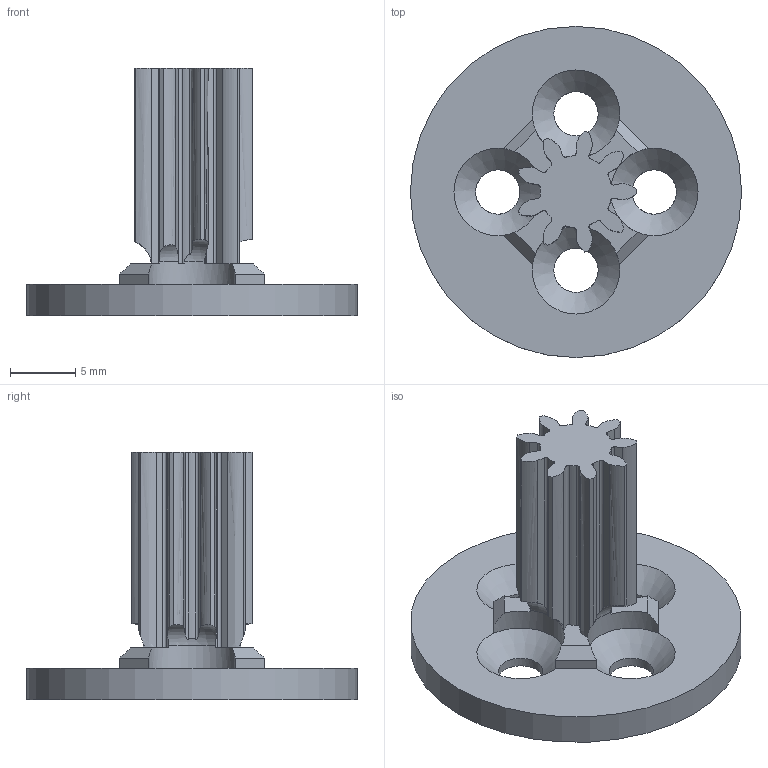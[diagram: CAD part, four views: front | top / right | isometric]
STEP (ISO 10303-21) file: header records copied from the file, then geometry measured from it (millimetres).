
FILE_DESCRIPTION(/* description */ ('STEP AP242 Edition 2','CAx-IF Rec.Pracs.---Representation and Presentation of Product Manufacturing Information (PMI)---4.0---2014-10-13','CAx-IF Rec.Pracs.---3D Tessellated Geometry---0.4---2014-09-14','2;1','CAx-IF Rec.Pracs.---User Defined Attributes---1.5---2016-08-15'),/* implementation_level */ '2;1');
FILE_NAME(/* name */ 'Main - Sun Gear',/* time_stamp */ '2026-09-22T02:10:48Z',/* author */ (''),/* organization */ (''),/* preprocessor_version */ 'ST-DEVELOPER v20',/* originating_system */ 'ONSHAPE BY PTC INC, 1.221',/* authorisation */ ' ');
FILE_SCHEMA (('AP242_MANAGED_MODEL_BASED_3D_ENGINEERING_MIM_LF { 1 0 10303 442 3 1 4 }'));
Length unit declared in the file: metre
Products named in the file (1): Sun Gear
Bounding box: 25.4 x 25.4 x 18.95 mm (x, y, z)
Volume: 1685.2 mm3; surface area: 2028.1 mm2
Topology: 1 solids, 1 shells, 114 faces, 332 edges, 218 vertices
Faces by surface type: plane 48, cylinder 38, bspline 18, torus 6, cone 4
Full cylindrical faces by diameter (mm): 3.4 x4, 3.533 x1, 25.4 x1
Entity records: 4766 total; most frequent: CARTESIAN_POINT 1908, ORIENTED_EDGE 628, DIRECTION 536, EDGE_CURVE 314, VERTEX_POINT 210, AXIS2_PLACEMENT_3D 194, LINE 148, VECTOR 148
